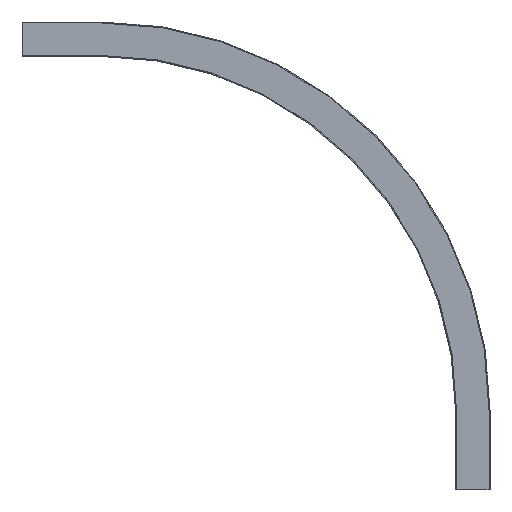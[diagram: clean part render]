
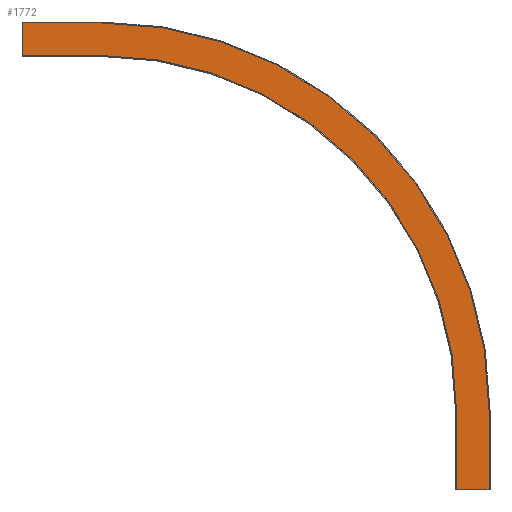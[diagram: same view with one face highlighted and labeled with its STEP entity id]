
A CAD part, front view. The second image highlights one B-rep face of the part: STEP entity #1772.
In plain terms, the highlighted planar face has unit normal (0, -1, 0).
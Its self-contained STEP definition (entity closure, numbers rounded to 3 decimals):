
#71 = CARTESIAN_POINT ( 'NONE',  ( -700., -42., 880.65 ) ) ;
#163 = LINE ( 'NONE', #1689, #2092 ) ;
#164 = ORIENTED_EDGE ( 'NONE', *, *, #295, .F. ) ;
#214 = CARTESIAN_POINT ( 'NONE',  ( 30.65, -42., 0. ) ) ;
#220 = ORIENTED_EDGE ( 'NONE', *, *, #780, .T. ) ;
#251 = EDGE_CURVE ( 'NONE', #2226, #2180, #2126, .T. ) ;
#281 = LINE ( 'NONE', #371, #2784 ) ;
#286 = DIRECTION ( 'NONE',  ( -1., 0., 0. ) ) ;
#295 = EDGE_CURVE ( 'NONE', #2180, #2574, #2346, .T. ) ;
#305 = ORIENTED_EDGE ( 'NONE', *, *, #2096, .T. ) ;
#363 = VECTOR ( 'NONE', #286, 1000. ) ;
#371 = CARTESIAN_POINT ( 'NONE',  ( -850., -42., 819.35 ) ) ;
#389 = DIRECTION ( 'NONE',  ( 0., 0., -1. ) ) ;
#429 = DIRECTION ( 'NONE',  ( 0., -1., 0. ) ) ;
#430 = VECTOR ( 'NONE', #2906, 1000. ) ;
#489 = AXIS2_PLACEMENT_3D ( 'NONE', #3112, #702, #2148 ) ;
#494 = EDGE_CURVE ( 'Edge18', #2226, #1831, #915, .T. ) ;
#509 = CARTESIAN_POINT ( 'NONE',  ( -30.65, -42., 0. ) ) ;
#623 = DIRECTION ( 'NONE',  ( 0., -1., 0. ) ) ;
#637 = EDGE_CURVE ( 'NONE', #1114, #1569, #2018, .T. ) ;
#702 = DIRECTION ( 'NONE',  ( 0., -1., 0. ) ) ;
#780 = EDGE_CURVE ( 'Edge42', #1831, #3098, #163, .T. ) ;
#805 = CARTESIAN_POINT ( 'NONE',  ( -30.65, -42., 0. ) ) ;
#906 = ORIENTED_EDGE ( 'NONE', *, *, #2085, .F. ) ;
#915 = CIRCLE ( 'NONE', #2985, 730.65 ) ;
#1091 = CARTESIAN_POINT ( 'NONE',  ( -30.65, -42., 150. ) ) ;
#1114 = VERTEX_POINT ( 'NONE', #1091 ) ;
#1179 = DIRECTION ( 'NONE',  ( -1., 0., 0. ) ) ;
#1220 = ORIENTED_EDGE ( 'NONE', *, *, #2751, .T. ) ;
#1233 = CARTESIAN_POINT ( 'NONE',  ( -700., -42., 819.35 ) ) ;
#1364 = AXIS2_PLACEMENT_3D ( 'NONE', #3088, #429, #3096 ) ;
#1379 = PLANE ( 'NONE',  #1364 ) ;
#1517 = CARTESIAN_POINT ( 'NONE',  ( -850., -42., 880.65 ) ) ;
#1569 = VERTEX_POINT ( 'NONE', #2045 ) ;
#1689 = CARTESIAN_POINT ( 'NONE',  ( -700., -42., 880.65 ) ) ;
#1772 = ADVANCED_FACE ( 'NONE', ( #2469 ), #1379, .T. ) ;
#1831 = VERTEX_POINT ( 'NONE', #71 ) ;
#1895 = CARTESIAN_POINT ( 'NONE',  ( 30.65, -42., 150. ) ) ;
#1940 = CARTESIAN_POINT ( 'NONE',  ( -30.65, -42., 150. ) ) ;
#1979 = CARTESIAN_POINT ( 'NONE',  ( -850., -42., 819.35 ) ) ;
#2018 = CIRCLE ( 'NONE', #489, 669.35 ) ;
#2045 = CARTESIAN_POINT ( 'NONE',  ( -700., -42., 819.35 ) ) ;
#2085 = EDGE_CURVE ( 'NONE', #1569, #2885, #2348, .T. ) ;
#2092 = VECTOR ( 'NONE', #1179, 1000. ) ;
#2096 = EDGE_CURVE ( 'NONE', #1114, #2574, #2381, .T. ) ;
#2126 = LINE ( 'NONE', #3128, #430 ) ;
#2148 = DIRECTION ( 'NONE',  ( 0., 0., -1. ) ) ;
#2180 = VERTEX_POINT ( 'NONE', #214 ) ;
#2188 = DIRECTION ( 'NONE',  ( -1., 0., 0. ) ) ;
#2218 = DIRECTION ( 'NONE',  ( 0., 0., -1. ) ) ;
#2226 = VERTEX_POINT ( 'NONE', #1895 ) ;
#2291 = ORIENTED_EDGE ( 'NONE', *, *, #251, .F. ) ;
#2346 = LINE ( 'NONE', #509, #2422 ) ;
#2348 = LINE ( 'NONE', #1233, #363 ) ;
#2381 = LINE ( 'NONE', #1940, #3018 ) ;
#2422 = VECTOR ( 'NONE', #2188, 1000. ) ;
#2469 = FACE_OUTER_BOUND ( 'NONE', #2833, .T. ) ;
#2559 = CARTESIAN_POINT ( 'NONE',  ( -700., -42., 150. ) ) ;
#2574 = VERTEX_POINT ( 'NONE', #805 ) ;
#2689 = ORIENTED_EDGE ( 'NONE', *, *, #637, .F. ) ;
#2751 = EDGE_CURVE ( 'NONE', #3098, #2885, #281, .T. ) ;
#2784 = VECTOR ( 'NONE', #2808, 1000. ) ;
#2808 = DIRECTION ( 'NONE',  ( 0., 0., -1. ) ) ;
#2833 = EDGE_LOOP ( 'NONE', ( #164, #2291, #3093, #220, #1220, #906, #2689, #305 ) ) ;
#2885 = VERTEX_POINT ( 'NONE', #1979 ) ;
#2906 = DIRECTION ( 'NONE',  ( 0., 0., -1. ) ) ;
#2985 = AXIS2_PLACEMENT_3D ( 'NONE', #2559, #623, #389 ) ;
#3018 = VECTOR ( 'NONE', #2218, 1000. ) ;
#3088 = CARTESIAN_POINT ( 'NONE',  ( -30.65, -42., 150. ) ) ;
#3093 = ORIENTED_EDGE ( 'NONE', *, *, #494, .T. ) ;
#3096 = DIRECTION ( 'NONE',  ( 1., 0., 0. ) ) ;
#3098 = VERTEX_POINT ( 'NONE', #1517 ) ;
#3112 = CARTESIAN_POINT ( 'NONE',  ( -700., -42., 150. ) ) ;
#3128 = CARTESIAN_POINT ( 'NONE',  ( 30.65, -42., 150. ) ) ;
